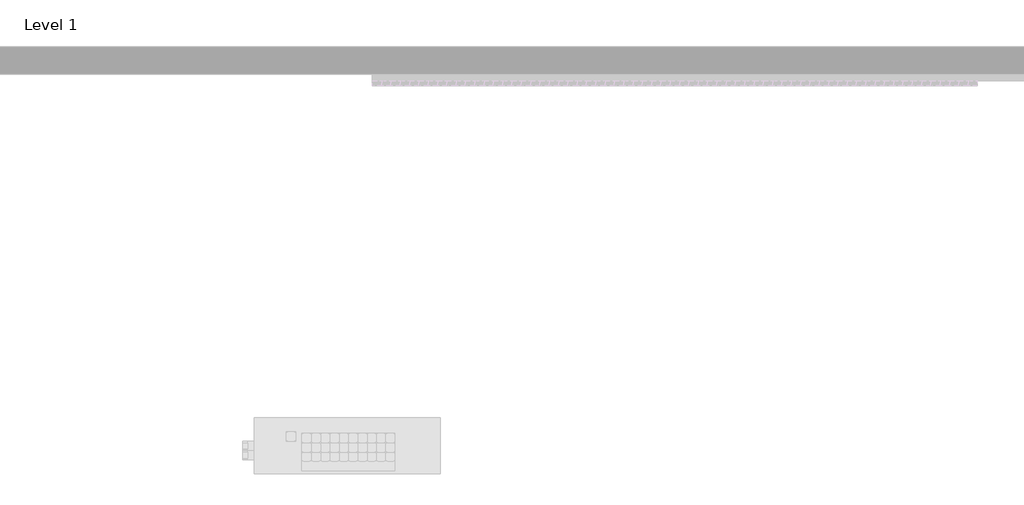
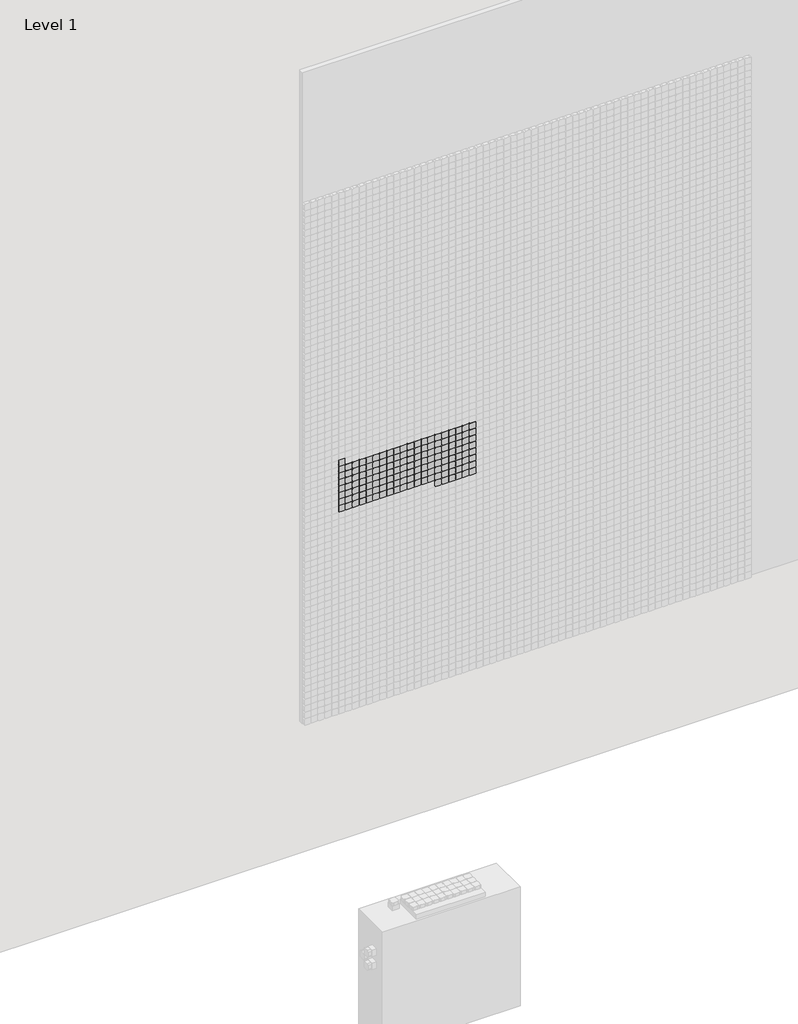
# One storey, part 16 of 71: 147 proxies.
"""IFC4 building model written with IfcOpenShell, lengths in millimetres."""

from ifc_helpers import new_model, si_unit, origin, place, context, project, spatial, transform, mapped, element, save
from components import generic_models_afde289c

model = new_model("IFC4")

# Units and contexts
model_context = context("Model", 3, world=origin())
ifc_project = project(units=[si_unit("LENGTHUNIT", "METRE", prefix="MILLI")], contexts=[model_context])

# Site, building, storey
site = spatial("IfcSite", under=ifc_project)
building = spatial("IfcBuilding", under=site)
storey = spatial("IfcBuildingStorey", under=building, Name="Level 1", Elevation=0.0)

# Proxies
placement = place(None, origin())
generic_models_shape = generic_models_afde289c(model_context)
element("IfcBuildingElementProxy", 1, Name="Pixel_M : Pixel_M", ObjectType="Pixel_M : Pixel_M", at=placement, inside=storey, context=model_context, shape_type="MappedRepresentation", body=[
    mapped(generic_models_shape, transform((5012.4280941, -75.0, 2916.3566215), x_axis=(1.0, 0.0, 0.0), y_axis=(0.0, 0.0, 1.0), z_axis=(0.0, -1.0, 0.0))),
])
element("IfcBuildingElementProxy", 2, Name="Pixel_M : Pixel_M", ObjectType="Pixel_M : Pixel_M", at=placement, inside=storey, context=model_context, shape_type="MappedRepresentation", body=[
    mapped(generic_models_shape, transform((5962.4280941, -75.0, 2866.3566215), x_axis=(1.0, 0.0, 0.0), y_axis=(0.0, 0.0, 1.0), z_axis=(0.0, -1.0, 0.0))),
])
element("IfcBuildingElementProxy", 3, Name="Pixel_M : Pixel_M", ObjectType="Pixel_M : Pixel_M", at=placement, inside=storey, context=model_context, shape_type="MappedRepresentation", body=[
    mapped(generic_models_shape, transform((5912.4280941, -75.0, 2866.3566215), x_axis=(1.0, 0.0, 0.0), y_axis=(0.0, 0.0, 1.0), z_axis=(0.0, -1.0, 0.0))),
])
element("IfcBuildingElementProxy", 4, Name="Pixel_M : Pixel_M", ObjectType="Pixel_M : Pixel_M", at=placement, inside=storey, context=model_context, shape_type="MappedRepresentation", body=[
    mapped(generic_models_shape, transform((5862.4280941, -75.0, 2866.3566215), x_axis=(1.0, 0.0, 0.0), y_axis=(0.0, 0.0, 1.0), z_axis=(0.0, -1.0, 0.0))),
])
element("IfcBuildingElementProxy", 5, Name="Pixel_M : Pixel_M", ObjectType="Pixel_M : Pixel_M", at=placement, inside=storey, context=model_context, shape_type="MappedRepresentation", body=[
    mapped(generic_models_shape, transform((5812.4280941, -75.0, 2866.3566215), x_axis=(1.0, 0.0, 0.0), y_axis=(0.0, 0.0, 1.0), z_axis=(0.0, -1.0, 0.0))),
])
element("IfcBuildingElementProxy", 6, Name="Pixel_M : Pixel_M", ObjectType="Pixel_M : Pixel_M", at=placement, inside=storey, context=model_context, shape_type="MappedRepresentation", body=[
    mapped(generic_models_shape, transform((5762.4280941, -75.0, 2866.3566215), x_axis=(1.0, 0.0, 0.0), y_axis=(0.0, 0.0, 1.0), z_axis=(0.0, -1.0, 0.0))),
])
element("IfcBuildingElementProxy", 7, Name="Pixel_M : Pixel_M", ObjectType="Pixel_M : Pixel_M", at=placement, inside=storey, context=model_context, shape_type="MappedRepresentation", body=[
    mapped(generic_models_shape, transform((5712.4280941, -75.0, 2866.3566215), x_axis=(1.0, 0.0, 0.0), y_axis=(0.0, 0.0, 1.0), z_axis=(0.0, -1.0, 0.0))),
])
element("IfcBuildingElementProxy", 8, Name="Pixel_M : Pixel_M", ObjectType="Pixel_M : Pixel_M", at=placement, inside=storey, context=model_context, shape_type="MappedRepresentation", body=[
    mapped(generic_models_shape, transform((5662.4280941, -75.0, 2866.3566215), x_axis=(1.0, 0.0, 0.0), y_axis=(0.0, 0.0, 1.0), z_axis=(0.0, -1.0, 0.0))),
])
element("IfcBuildingElementProxy", 9, Name="Pixel_M : Pixel_M", ObjectType="Pixel_M : Pixel_M", at=placement, inside=storey, context=model_context, shape_type="MappedRepresentation", body=[
    mapped(generic_models_shape, transform((5612.4280941, -75.0, 2866.3566215), x_axis=(1.0, 0.0, 0.0), y_axis=(0.0, 0.0, 1.0), z_axis=(0.0, -1.0, 0.0))),
])
element("IfcBuildingElementProxy", 10, Name="Pixel_M : Pixel_M", ObjectType="Pixel_M : Pixel_M", at=placement, inside=storey, context=model_context, shape_type="MappedRepresentation", body=[
    mapped(generic_models_shape, transform((5562.4280941, -75.0, 2866.3566215), x_axis=(1.0, 0.0, 0.0), y_axis=(0.0, 0.0, 1.0), z_axis=(0.0, -1.0, 0.0))),
])
element("IfcBuildingElementProxy", 11, Name="Pixel_M : Pixel_M", ObjectType="Pixel_M : Pixel_M", at=placement, inside=storey, context=model_context, shape_type="MappedRepresentation", body=[
    mapped(generic_models_shape, transform((5512.4280941, -75.0, 2866.3566215), x_axis=(1.0, 0.0, 0.0), y_axis=(0.0, 0.0, 1.0), z_axis=(0.0, -1.0, 0.0))),
])
element("IfcBuildingElementProxy", 12, Name="Pixel_M : Pixel_M", ObjectType="Pixel_M : Pixel_M", at=placement, inside=storey, context=model_context, shape_type="MappedRepresentation", body=[
    mapped(generic_models_shape, transform((5462.4280941, -75.0, 2866.3566215), x_axis=(1.0, 0.0, 0.0), y_axis=(0.0, 0.0, 1.0), z_axis=(0.0, -1.0, 0.0))),
])
element("IfcBuildingElementProxy", 13, Name="Pixel_M : Pixel_M", ObjectType="Pixel_M : Pixel_M", at=placement, inside=storey, context=model_context, shape_type="MappedRepresentation", body=[
    mapped(generic_models_shape, transform((5412.4280941, -75.0, 2866.3566215), x_axis=(1.0, 0.0, 0.0), y_axis=(0.0, 0.0, 1.0), z_axis=(0.0, -1.0, 0.0))),
])
element("IfcBuildingElementProxy", 14, Name="Pixel_M : Pixel_M", ObjectType="Pixel_M : Pixel_M", at=placement, inside=storey, context=model_context, shape_type="MappedRepresentation", body=[
    mapped(generic_models_shape, transform((5362.4280941, -75.0, 2866.3566215), x_axis=(1.0, 0.0, 0.0), y_axis=(0.0, 0.0, 1.0), z_axis=(0.0, -1.0, 0.0))),
])
element("IfcBuildingElementProxy", 15, Name="Pixel_M : Pixel_M", ObjectType="Pixel_M : Pixel_M", at=placement, inside=storey, context=model_context, shape_type="MappedRepresentation", body=[
    mapped(generic_models_shape, transform((5312.4280941, -75.0, 2866.3566215), x_axis=(1.0, 0.0, 0.0), y_axis=(0.0, 0.0, 1.0), z_axis=(0.0, -1.0, 0.0))),
])
element("IfcBuildingElementProxy", 16, Name="Pixel_M : Pixel_M", ObjectType="Pixel_M : Pixel_M", at=placement, inside=storey, context=model_context, shape_type="MappedRepresentation", body=[
    mapped(generic_models_shape, transform((5262.4280941, -75.0, 2866.3566215), x_axis=(1.0, 0.0, 0.0), y_axis=(0.0, 0.0, 1.0), z_axis=(0.0, -1.0, 0.0))),
])
element("IfcBuildingElementProxy", 17, Name="Pixel_M : Pixel_M", ObjectType="Pixel_M : Pixel_M", at=placement, inside=storey, context=model_context, shape_type="MappedRepresentation", body=[
    mapped(generic_models_shape, transform((5212.4280941, -75.0, 2866.3566215), x_axis=(1.0, 0.0, 0.0), y_axis=(0.0, 0.0, 1.0), z_axis=(0.0, -1.0, 0.0))),
])
element("IfcBuildingElementProxy", 18, Name="Pixel_M : Pixel_M", ObjectType="Pixel_M : Pixel_M", at=placement, inside=storey, context=model_context, shape_type="MappedRepresentation", body=[
    mapped(generic_models_shape, transform((5162.4280941, -75.0, 2866.3566215), x_axis=(1.0, 0.0, 0.0), y_axis=(0.0, 0.0, 1.0), z_axis=(0.0, -1.0, 0.0))),
])
element("IfcBuildingElementProxy", 19, Name="Pixel_M : Pixel_M", ObjectType="Pixel_M : Pixel_M", at=placement, inside=storey, context=model_context, shape_type="MappedRepresentation", body=[
    mapped(generic_models_shape, transform((5112.4280941, -75.0, 2866.3566215), x_axis=(1.0, 0.0, 0.0), y_axis=(0.0, 0.0, 1.0), z_axis=(0.0, -1.0, 0.0))),
])
element("IfcBuildingElementProxy", 20, Name="Pixel_M : Pixel_M", ObjectType="Pixel_M : Pixel_M", at=placement, inside=storey, context=model_context, shape_type="MappedRepresentation", body=[
    mapped(generic_models_shape, transform((5062.4280941, -75.0, 2866.3566215), x_axis=(1.0, 0.0, 0.0), y_axis=(0.0, 0.0, 1.0), z_axis=(0.0, -1.0, 0.0))),
])
element("IfcBuildingElementProxy", 21, Name="Pixel_M : Pixel_M", ObjectType="Pixel_M : Pixel_M", at=placement, inside=storey, context=model_context, shape_type="MappedRepresentation", body=[
    mapped(generic_models_shape, transform((5012.4280941, -75.0, 2866.3566215), x_axis=(1.0, 0.0, 0.0), y_axis=(0.0, 0.0, 1.0), z_axis=(0.0, -1.0, 0.0))),
])
element("IfcBuildingElementProxy", 22, Name="Pixel_M : Pixel_M", ObjectType="Pixel_M : Pixel_M", at=placement, inside=storey, context=model_context, shape_type="MappedRepresentation", body=[
    mapped(generic_models_shape, transform((5962.4280941, -75.0, 2816.3566215), x_axis=(1.0, 0.0, 0.0), y_axis=(0.0, 0.0, 1.0), z_axis=(0.0, -1.0, 0.0))),
])
element("IfcBuildingElementProxy", 23, Name="Pixel_M : Pixel_M", ObjectType="Pixel_M : Pixel_M", at=placement, inside=storey, context=model_context, shape_type="MappedRepresentation", body=[
    mapped(generic_models_shape, transform((5912.4280941, -75.0, 2816.3566215), x_axis=(1.0, 0.0, 0.0), y_axis=(0.0, 0.0, 1.0), z_axis=(0.0, -1.0, 0.0))),
])
element("IfcBuildingElementProxy", 24, Name="Pixel_M : Pixel_M", ObjectType="Pixel_M : Pixel_M", at=placement, inside=storey, context=model_context, shape_type="MappedRepresentation", body=[
    mapped(generic_models_shape, transform((5862.4280941, -75.0, 2816.3566215), x_axis=(1.0, 0.0, 0.0), y_axis=(0.0, 0.0, 1.0), z_axis=(0.0, -1.0, 0.0))),
])
element("IfcBuildingElementProxy", 25, Name="Pixel_M : Pixel_M", ObjectType="Pixel_M : Pixel_M", at=placement, inside=storey, context=model_context, shape_type="MappedRepresentation", body=[
    mapped(generic_models_shape, transform((5812.4280941, -75.0, 2816.3566215), x_axis=(1.0, 0.0, 0.0), y_axis=(0.0, 0.0, 1.0), z_axis=(0.0, -1.0, 0.0))),
])
element("IfcBuildingElementProxy", 26, Name="Pixel_M : Pixel_M", ObjectType="Pixel_M : Pixel_M", at=placement, inside=storey, context=model_context, shape_type="MappedRepresentation", body=[
    mapped(generic_models_shape, transform((5762.4280941, -75.0, 2816.3566215), x_axis=(1.0, 0.0, 0.0), y_axis=(0.0, 0.0, 1.0), z_axis=(0.0, -1.0, 0.0))),
])
element("IfcBuildingElementProxy", 27, Name="Pixel_M : Pixel_M", ObjectType="Pixel_M : Pixel_M", at=placement, inside=storey, context=model_context, shape_type="MappedRepresentation", body=[
    mapped(generic_models_shape, transform((5712.4280941, -75.0, 2816.3566215), x_axis=(1.0, 0.0, 0.0), y_axis=(0.0, 0.0, 1.0), z_axis=(0.0, -1.0, 0.0))),
])
element("IfcBuildingElementProxy", 28, Name="Pixel_M : Pixel_M", ObjectType="Pixel_M : Pixel_M", at=placement, inside=storey, context=model_context, shape_type="MappedRepresentation", body=[
    mapped(generic_models_shape, transform((5662.4280941, -75.0, 2816.3566215), x_axis=(1.0, 0.0, 0.0), y_axis=(0.0, 0.0, 1.0), z_axis=(0.0, -1.0, 0.0))),
])
element("IfcBuildingElementProxy", 29, Name="Pixel_M : Pixel_M", ObjectType="Pixel_M : Pixel_M", at=placement, inside=storey, context=model_context, shape_type="MappedRepresentation", body=[
    mapped(generic_models_shape, transform((5612.4280941, -75.0, 2816.3566215), x_axis=(1.0, 0.0, 0.0), y_axis=(0.0, 0.0, 1.0), z_axis=(0.0, -1.0, 0.0))),
])
element("IfcBuildingElementProxy", 30, Name="Pixel_M : Pixel_M", ObjectType="Pixel_M : Pixel_M", at=placement, inside=storey, context=model_context, shape_type="MappedRepresentation", body=[
    mapped(generic_models_shape, transform((5562.4280941, -75.0, 2816.3566215), x_axis=(1.0, 0.0, 0.0), y_axis=(0.0, 0.0, 1.0), z_axis=(0.0, -1.0, 0.0))),
])
element("IfcBuildingElementProxy", 31, Name="Pixel_M : Pixel_M", ObjectType="Pixel_M : Pixel_M", at=placement, inside=storey, context=model_context, shape_type="MappedRepresentation", body=[
    mapped(generic_models_shape, transform((5512.4280941, -75.0, 2816.3566215), x_axis=(1.0, 0.0, 0.0), y_axis=(0.0, 0.0, 1.0), z_axis=(0.0, -1.0, 0.0))),
])
element("IfcBuildingElementProxy", 32, Name="Pixel_M : Pixel_M", ObjectType="Pixel_M : Pixel_M", at=placement, inside=storey, context=model_context, shape_type="MappedRepresentation", body=[
    mapped(generic_models_shape, transform((5462.4280941, -75.0, 2816.3566215), x_axis=(1.0, 0.0, 0.0), y_axis=(0.0, 0.0, 1.0), z_axis=(0.0, -1.0, 0.0))),
])
element("IfcBuildingElementProxy", 33, Name="Pixel_M : Pixel_M", ObjectType="Pixel_M : Pixel_M", at=placement, inside=storey, context=model_context, shape_type="MappedRepresentation", body=[
    mapped(generic_models_shape, transform((5412.4280941, -75.0, 2816.3566215), x_axis=(1.0, 0.0, 0.0), y_axis=(0.0, 0.0, 1.0), z_axis=(0.0, -1.0, 0.0))),
])
element("IfcBuildingElementProxy", 34, Name="Pixel_M : Pixel_M", ObjectType="Pixel_M : Pixel_M", at=placement, inside=storey, context=model_context, shape_type="MappedRepresentation", body=[
    mapped(generic_models_shape, transform((5362.4280941, -75.0, 2816.3566215), x_axis=(1.0, 0.0, 0.0), y_axis=(0.0, 0.0, 1.0), z_axis=(0.0, -1.0, 0.0))),
])
element("IfcBuildingElementProxy", 35, Name="Pixel_M : Pixel_M", ObjectType="Pixel_M : Pixel_M", at=placement, inside=storey, context=model_context, shape_type="MappedRepresentation", body=[
    mapped(generic_models_shape, transform((5312.4280941, -75.0, 2816.3566215), x_axis=(1.0, 0.0, 0.0), y_axis=(0.0, 0.0, 1.0), z_axis=(0.0, -1.0, 0.0))),
])
element("IfcBuildingElementProxy", 36, Name="Pixel_M : Pixel_M", ObjectType="Pixel_M : Pixel_M", at=placement, inside=storey, context=model_context, shape_type="MappedRepresentation", body=[
    mapped(generic_models_shape, transform((5262.4280941, -75.0, 2816.3566215), x_axis=(1.0, 0.0, 0.0), y_axis=(0.0, 0.0, 1.0), z_axis=(0.0, -1.0, 0.0))),
])
element("IfcBuildingElementProxy", 37, Name="Pixel_M : Pixel_M", ObjectType="Pixel_M : Pixel_M", at=placement, inside=storey, context=model_context, shape_type="MappedRepresentation", body=[
    mapped(generic_models_shape, transform((5212.4280941, -75.0, 2816.3566215), x_axis=(1.0, 0.0, 0.0), y_axis=(0.0, 0.0, 1.0), z_axis=(0.0, -1.0, 0.0))),
])
element("IfcBuildingElementProxy", 38, Name="Pixel_M : Pixel_M", ObjectType="Pixel_M : Pixel_M", at=placement, inside=storey, context=model_context, shape_type="MappedRepresentation", body=[
    mapped(generic_models_shape, transform((5162.4280941, -75.0, 2816.3566215), x_axis=(1.0, 0.0, 0.0), y_axis=(0.0, 0.0, 1.0), z_axis=(0.0, -1.0, 0.0))),
])
element("IfcBuildingElementProxy", 39, Name="Pixel_M : Pixel_M", ObjectType="Pixel_M : Pixel_M", at=placement, inside=storey, context=model_context, shape_type="MappedRepresentation", body=[
    mapped(generic_models_shape, transform((5112.4280941, -75.0, 2816.3566215), x_axis=(1.0, 0.0, 0.0), y_axis=(0.0, 0.0, 1.0), z_axis=(0.0, -1.0, 0.0))),
])
element("IfcBuildingElementProxy", 40, Name="Pixel_M : Pixel_M", ObjectType="Pixel_M : Pixel_M", at=placement, inside=storey, context=model_context, shape_type="MappedRepresentation", body=[
    mapped(generic_models_shape, transform((5062.4280941, -75.0, 2816.3566215), x_axis=(1.0, 0.0, 0.0), y_axis=(0.0, 0.0, 1.0), z_axis=(0.0, -1.0, 0.0))),
])
element("IfcBuildingElementProxy", 41, Name="Pixel_M : Pixel_M", ObjectType="Pixel_M : Pixel_M", at=placement, inside=storey, context=model_context, shape_type="MappedRepresentation", body=[
    mapped(generic_models_shape, transform((5012.4280941, -75.0, 2816.3566215), x_axis=(1.0, 0.0, 0.0), y_axis=(0.0, 0.0, 1.0), z_axis=(0.0, -1.0, 0.0))),
])
element("IfcBuildingElementProxy", 42, Name="Pixel_M : Pixel_M", ObjectType="Pixel_M : Pixel_M", at=placement, inside=storey, context=model_context, shape_type="MappedRepresentation", body=[
    mapped(generic_models_shape, transform((5962.4280941, -75.0, 2766.3566215), x_axis=(1.0, 0.0, 0.0), y_axis=(0.0, 0.0, 1.0), z_axis=(0.0, -1.0, 0.0))),
])
element("IfcBuildingElementProxy", 43, Name="Pixel_M : Pixel_M", ObjectType="Pixel_M : Pixel_M", at=placement, inside=storey, context=model_context, shape_type="MappedRepresentation", body=[
    mapped(generic_models_shape, transform((5912.4280941, -75.0, 2766.3566215), x_axis=(1.0, 0.0, 0.0), y_axis=(0.0, 0.0, 1.0), z_axis=(0.0, -1.0, 0.0))),
])
element("IfcBuildingElementProxy", 44, Name="Pixel_M : Pixel_M", ObjectType="Pixel_M : Pixel_M", at=placement, inside=storey, context=model_context, shape_type="MappedRepresentation", body=[
    mapped(generic_models_shape, transform((5862.4280941, -75.0, 2766.3566215), x_axis=(1.0, 0.0, 0.0), y_axis=(0.0, 0.0, 1.0), z_axis=(0.0, -1.0, 0.0))),
])
element("IfcBuildingElementProxy", 45, Name="Pixel_M : Pixel_M", ObjectType="Pixel_M : Pixel_M", at=placement, inside=storey, context=model_context, shape_type="MappedRepresentation", body=[
    mapped(generic_models_shape, transform((5812.4280941, -75.0, 2766.3566215), x_axis=(1.0, 0.0, 0.0), y_axis=(0.0, 0.0, 1.0), z_axis=(0.0, -1.0, 0.0))),
])
element("IfcBuildingElementProxy", 46, Name="Pixel_M : Pixel_M", ObjectType="Pixel_M : Pixel_M", at=placement, inside=storey, context=model_context, shape_type="MappedRepresentation", body=[
    mapped(generic_models_shape, transform((5762.4280941, -75.0, 2766.3566215), x_axis=(1.0, 0.0, 0.0), y_axis=(0.0, 0.0, 1.0), z_axis=(0.0, -1.0, 0.0))),
])
element("IfcBuildingElementProxy", 47, Name="Pixel_M : Pixel_M", ObjectType="Pixel_M : Pixel_M", at=placement, inside=storey, context=model_context, shape_type="MappedRepresentation", body=[
    mapped(generic_models_shape, transform((5712.4280941, -75.0, 2766.3566215), x_axis=(1.0, 0.0, 0.0), y_axis=(0.0, 0.0, 1.0), z_axis=(0.0, -1.0, 0.0))),
])
element("IfcBuildingElementProxy", 48, Name="Pixel_M : Pixel_M", ObjectType="Pixel_M : Pixel_M", at=placement, inside=storey, context=model_context, shape_type="MappedRepresentation", body=[
    mapped(generic_models_shape, transform((5662.4280941, -75.0, 2766.3566215), x_axis=(1.0, 0.0, 0.0), y_axis=(0.0, 0.0, 1.0), z_axis=(0.0, -1.0, 0.0))),
])
element("IfcBuildingElementProxy", 49, Name="Pixel_M : Pixel_M", ObjectType="Pixel_M : Pixel_M", at=placement, inside=storey, context=model_context, shape_type="MappedRepresentation", body=[
    mapped(generic_models_shape, transform((5612.4280941, -75.0, 2766.3566215), x_axis=(1.0, 0.0, 0.0), y_axis=(0.0, 0.0, 1.0), z_axis=(0.0, -1.0, 0.0))),
])
element("IfcBuildingElementProxy", 50, Name="Pixel_M : Pixel_M", ObjectType="Pixel_M : Pixel_M", at=placement, inside=storey, context=model_context, shape_type="MappedRepresentation", body=[
    mapped(generic_models_shape, transform((5562.4280941, -75.0, 2766.3566215), x_axis=(1.0, 0.0, 0.0), y_axis=(0.0, 0.0, 1.0), z_axis=(0.0, -1.0, 0.0))),
])
element("IfcBuildingElementProxy", 51, Name="Pixel_M : Pixel_M", ObjectType="Pixel_M : Pixel_M", at=placement, inside=storey, context=model_context, shape_type="MappedRepresentation", body=[
    mapped(generic_models_shape, transform((5512.4280941, -75.0, 2766.3566215), x_axis=(1.0, 0.0, 0.0), y_axis=(0.0, 0.0, 1.0), z_axis=(0.0, -1.0, 0.0))),
])
element("IfcBuildingElementProxy", 52, Name="Pixel_M : Pixel_M", ObjectType="Pixel_M : Pixel_M", at=placement, inside=storey, context=model_context, shape_type="MappedRepresentation", body=[
    mapped(generic_models_shape, transform((5462.4280941, -75.0, 2766.3566215), x_axis=(1.0, 0.0, 0.0), y_axis=(0.0, 0.0, 1.0), z_axis=(0.0, -1.0, 0.0))),
])
element("IfcBuildingElementProxy", 53, Name="Pixel_M : Pixel_M", ObjectType="Pixel_M : Pixel_M", at=placement, inside=storey, context=model_context, shape_type="MappedRepresentation", body=[
    mapped(generic_models_shape, transform((5412.4280941, -75.0, 2766.3566215), x_axis=(1.0, 0.0, 0.0), y_axis=(0.0, 0.0, 1.0), z_axis=(0.0, -1.0, 0.0))),
])
element("IfcBuildingElementProxy", 54, Name="Pixel_M : Pixel_M", ObjectType="Pixel_M : Pixel_M", at=placement, inside=storey, context=model_context, shape_type="MappedRepresentation", body=[
    mapped(generic_models_shape, transform((5362.4280941, -75.0, 2766.3566215), x_axis=(1.0, 0.0, 0.0), y_axis=(0.0, 0.0, 1.0), z_axis=(0.0, -1.0, 0.0))),
])
element("IfcBuildingElementProxy", 55, Name="Pixel_M : Pixel_M", ObjectType="Pixel_M : Pixel_M", at=placement, inside=storey, context=model_context, shape_type="MappedRepresentation", body=[
    mapped(generic_models_shape, transform((5312.4280941, -75.0, 2766.3566215), x_axis=(1.0, 0.0, 0.0), y_axis=(0.0, 0.0, 1.0), z_axis=(0.0, -1.0, 0.0))),
])
element("IfcBuildingElementProxy", 56, Name="Pixel_M : Pixel_M", ObjectType="Pixel_M : Pixel_M", at=placement, inside=storey, context=model_context, shape_type="MappedRepresentation", body=[
    mapped(generic_models_shape, transform((5262.4280941, -75.0, 2766.3566215), x_axis=(1.0, 0.0, 0.0), y_axis=(0.0, 0.0, 1.0), z_axis=(0.0, -1.0, 0.0))),
])
element("IfcBuildingElementProxy", 57, Name="Pixel_M : Pixel_M", ObjectType="Pixel_M : Pixel_M", at=placement, inside=storey, context=model_context, shape_type="MappedRepresentation", body=[
    mapped(generic_models_shape, transform((5212.4280941, -75.0, 2766.3566215), x_axis=(1.0, 0.0, 0.0), y_axis=(0.0, 0.0, 1.0), z_axis=(0.0, -1.0, 0.0))),
])
element("IfcBuildingElementProxy", 58, Name="Pixel_M : Pixel_M", ObjectType="Pixel_M : Pixel_M", at=placement, inside=storey, context=model_context, shape_type="MappedRepresentation", body=[
    mapped(generic_models_shape, transform((5162.4280941, -75.0, 2766.3566215), x_axis=(1.0, 0.0, 0.0), y_axis=(0.0, 0.0, 1.0), z_axis=(0.0, -1.0, 0.0))),
])
element("IfcBuildingElementProxy", 59, Name="Pixel_M : Pixel_M", ObjectType="Pixel_M : Pixel_M", at=placement, inside=storey, context=model_context, shape_type="MappedRepresentation", body=[
    mapped(generic_models_shape, transform((5112.4280941, -75.0, 2766.3566215), x_axis=(1.0, 0.0, 0.0), y_axis=(0.0, 0.0, 1.0), z_axis=(0.0, -1.0, 0.0))),
])
element("IfcBuildingElementProxy", 60, Name="Pixel_M : Pixel_M", ObjectType="Pixel_M : Pixel_M", at=placement, inside=storey, context=model_context, shape_type="MappedRepresentation", body=[
    mapped(generic_models_shape, transform((5062.4280941, -75.0, 2766.3566215), x_axis=(1.0, 0.0, 0.0), y_axis=(0.0, 0.0, 1.0), z_axis=(0.0, -1.0, 0.0))),
])
element("IfcBuildingElementProxy", 61, Name="Pixel_M : Pixel_M", ObjectType="Pixel_M : Pixel_M", at=placement, inside=storey, context=model_context, shape_type="MappedRepresentation", body=[
    mapped(generic_models_shape, transform((5012.4280941, -75.0, 2766.3566215), x_axis=(1.0, 0.0, 0.0), y_axis=(0.0, 0.0, 1.0), z_axis=(0.0, -1.0, 0.0))),
])
element("IfcBuildingElementProxy", 62, Name="Pixel_M : Pixel_M", ObjectType="Pixel_M : Pixel_M", at=placement, inside=storey, context=model_context, shape_type="MappedRepresentation", body=[
    mapped(generic_models_shape, transform((5962.4280941, -75.0, 2716.3566215), x_axis=(1.0, 0.0, 0.0), y_axis=(0.0, 0.0, 1.0), z_axis=(0.0, -1.0, 0.0))),
])
element("IfcBuildingElementProxy", 63, Name="Pixel_M : Pixel_M", ObjectType="Pixel_M : Pixel_M", at=placement, inside=storey, context=model_context, shape_type="MappedRepresentation", body=[
    mapped(generic_models_shape, transform((5912.4280941, -75.0, 2716.3566215), x_axis=(1.0, 0.0, 0.0), y_axis=(0.0, 0.0, 1.0), z_axis=(0.0, -1.0, 0.0))),
])
element("IfcBuildingElementProxy", 64, Name="Pixel_M : Pixel_M", ObjectType="Pixel_M : Pixel_M", at=placement, inside=storey, context=model_context, shape_type="MappedRepresentation", body=[
    mapped(generic_models_shape, transform((5862.4280941, -75.0, 2716.3566215), x_axis=(1.0, 0.0, 0.0), y_axis=(0.0, 0.0, 1.0), z_axis=(0.0, -1.0, 0.0))),
])
element("IfcBuildingElementProxy", 65, Name="Pixel_M : Pixel_M", ObjectType="Pixel_M : Pixel_M", at=placement, inside=storey, context=model_context, shape_type="MappedRepresentation", body=[
    mapped(generic_models_shape, transform((5812.4280941, -75.0, 2716.3566215), x_axis=(1.0, 0.0, 0.0), y_axis=(0.0, 0.0, 1.0), z_axis=(0.0, -1.0, 0.0))),
])
element("IfcBuildingElementProxy", 66, Name="Pixel_M : Pixel_M", ObjectType="Pixel_M : Pixel_M", at=placement, inside=storey, context=model_context, shape_type="MappedRepresentation", body=[
    mapped(generic_models_shape, transform((5762.4280941, -75.0, 2716.3566215), x_axis=(1.0, 0.0, 0.0), y_axis=(0.0, 0.0, 1.0), z_axis=(0.0, -1.0, 0.0))),
])
element("IfcBuildingElementProxy", 67, Name="Pixel_M : Pixel_M", ObjectType="Pixel_M : Pixel_M", at=placement, inside=storey, context=model_context, shape_type="MappedRepresentation", body=[
    mapped(generic_models_shape, transform((5712.4280941, -75.0, 2716.3566215), x_axis=(1.0, 0.0, 0.0), y_axis=(0.0, 0.0, 1.0), z_axis=(0.0, -1.0, 0.0))),
])
element("IfcBuildingElementProxy", 68, Name="Pixel_M : Pixel_M", ObjectType="Pixel_M : Pixel_M", at=placement, inside=storey, context=model_context, shape_type="MappedRepresentation", body=[
    mapped(generic_models_shape, transform((5662.4280941, -75.0, 2716.3566215), x_axis=(1.0, 0.0, 0.0), y_axis=(0.0, 0.0, 1.0), z_axis=(0.0, -1.0, 0.0))),
])
element("IfcBuildingElementProxy", 69, Name="Pixel_M : Pixel_M", ObjectType="Pixel_M : Pixel_M", at=placement, inside=storey, context=model_context, shape_type="MappedRepresentation", body=[
    mapped(generic_models_shape, transform((5612.4280941, -75.0, 2716.3566215), x_axis=(1.0, 0.0, 0.0), y_axis=(0.0, 0.0, 1.0), z_axis=(0.0, -1.0, 0.0))),
])
element("IfcBuildingElementProxy", 70, Name="Pixel_M : Pixel_M", ObjectType="Pixel_M : Pixel_M", at=placement, inside=storey, context=model_context, shape_type="MappedRepresentation", body=[
    mapped(generic_models_shape, transform((5562.4280941, -75.0, 2716.3566215), x_axis=(1.0, 0.0, 0.0), y_axis=(0.0, 0.0, 1.0), z_axis=(0.0, -1.0, 0.0))),
])
element("IfcBuildingElementProxy", 71, Name="Pixel_M : Pixel_M", ObjectType="Pixel_M : Pixel_M", at=placement, inside=storey, context=model_context, shape_type="MappedRepresentation", body=[
    mapped(generic_models_shape, transform((5512.4280941, -75.0, 2716.3566215), x_axis=(1.0, 0.0, 0.0), y_axis=(0.0, 0.0, 1.0), z_axis=(0.0, -1.0, 0.0))),
])
element("IfcBuildingElementProxy", 72, Name="Pixel_M : Pixel_M", ObjectType="Pixel_M : Pixel_M", at=placement, inside=storey, context=model_context, shape_type="MappedRepresentation", body=[
    mapped(generic_models_shape, transform((5462.4280941, -75.0, 2716.3566215), x_axis=(1.0, 0.0, 0.0), y_axis=(0.0, 0.0, 1.0), z_axis=(0.0, -1.0, 0.0))),
])
element("IfcBuildingElementProxy", 73, Name="Pixel_M : Pixel_M", ObjectType="Pixel_M : Pixel_M", at=placement, inside=storey, context=model_context, shape_type="MappedRepresentation", body=[
    mapped(generic_models_shape, transform((5412.4280941, -75.0, 2716.3566215), x_axis=(1.0, 0.0, 0.0), y_axis=(0.0, 0.0, 1.0), z_axis=(0.0, -1.0, 0.0))),
])
element("IfcBuildingElementProxy", 74, Name="Pixel_M : Pixel_M", ObjectType="Pixel_M : Pixel_M", at=placement, inside=storey, context=model_context, shape_type="MappedRepresentation", body=[
    mapped(generic_models_shape, transform((5362.4280941, -75.0, 2716.3566215), x_axis=(1.0, 0.0, 0.0), y_axis=(0.0, 0.0, 1.0), z_axis=(0.0, -1.0, 0.0))),
])
element("IfcBuildingElementProxy", 75, Name="Pixel_M : Pixel_M", ObjectType="Pixel_M : Pixel_M", at=placement, inside=storey, context=model_context, shape_type="MappedRepresentation", body=[
    mapped(generic_models_shape, transform((5312.4280941, -75.0, 2716.3566215), x_axis=(1.0, 0.0, 0.0), y_axis=(0.0, 0.0, 1.0), z_axis=(0.0, -1.0, 0.0))),
])
element("IfcBuildingElementProxy", 76, Name="Pixel_M : Pixel_M", ObjectType="Pixel_M : Pixel_M", at=placement, inside=storey, context=model_context, shape_type="MappedRepresentation", body=[
    mapped(generic_models_shape, transform((5262.4280941, -75.0, 2716.3566215), x_axis=(1.0, 0.0, 0.0), y_axis=(0.0, 0.0, 1.0), z_axis=(0.0, -1.0, 0.0))),
])
element("IfcBuildingElementProxy", 77, Name="Pixel_M : Pixel_M", ObjectType="Pixel_M : Pixel_M", at=placement, inside=storey, context=model_context, shape_type="MappedRepresentation", body=[
    mapped(generic_models_shape, transform((5212.4280941, -75.0, 2716.3566215), x_axis=(1.0, 0.0, 0.0), y_axis=(0.0, 0.0, 1.0), z_axis=(0.0, -1.0, 0.0))),
])
element("IfcBuildingElementProxy", 78, Name="Pixel_M : Pixel_M", ObjectType="Pixel_M : Pixel_M", at=placement, inside=storey, context=model_context, shape_type="MappedRepresentation", body=[
    mapped(generic_models_shape, transform((5162.4280941, -75.0, 2716.3566215), x_axis=(1.0, 0.0, 0.0), y_axis=(0.0, 0.0, 1.0), z_axis=(0.0, -1.0, 0.0))),
])
element("IfcBuildingElementProxy", 79, Name="Pixel_M : Pixel_M", ObjectType="Pixel_M : Pixel_M", at=placement, inside=storey, context=model_context, shape_type="MappedRepresentation", body=[
    mapped(generic_models_shape, transform((5112.4280941, -75.0, 2716.3566215), x_axis=(1.0, 0.0, 0.0), y_axis=(0.0, 0.0, 1.0), z_axis=(0.0, -1.0, 0.0))),
])
element("IfcBuildingElementProxy", 80, Name="Pixel_M : Pixel_M", ObjectType="Pixel_M : Pixel_M", at=placement, inside=storey, context=model_context, shape_type="MappedRepresentation", body=[
    mapped(generic_models_shape, transform((5062.4280941, -75.0, 2716.3566215), x_axis=(1.0, 0.0, 0.0), y_axis=(0.0, 0.0, 1.0), z_axis=(0.0, -1.0, 0.0))),
])
element("IfcBuildingElementProxy", 81, Name="Pixel_M : Pixel_M", ObjectType="Pixel_M : Pixel_M", at=placement, inside=storey, context=model_context, shape_type="MappedRepresentation", body=[
    mapped(generic_models_shape, transform((5012.4280941, -75.0, 2716.3566215), x_axis=(1.0, 0.0, 0.0), y_axis=(0.0, 0.0, 1.0), z_axis=(0.0, -1.0, 0.0))),
])
element("IfcBuildingElementProxy", 82, Name="Pixel_M : Pixel_M", ObjectType="Pixel_M : Pixel_M", at=placement, inside=storey, context=model_context, shape_type="MappedRepresentation", body=[
    mapped(generic_models_shape, transform((5962.4280941, -75.0, 2666.3566215), x_axis=(1.0, 0.0, 0.0), y_axis=(0.0, 0.0, 1.0), z_axis=(0.0, -1.0, 0.0))),
])
element("IfcBuildingElementProxy", 83, Name="Pixel_M : Pixel_M", ObjectType="Pixel_M : Pixel_M", at=placement, inside=storey, context=model_context, shape_type="MappedRepresentation", body=[
    mapped(generic_models_shape, transform((5912.4280941, -75.0, 2666.3566215), x_axis=(1.0, 0.0, 0.0), y_axis=(0.0, 0.0, 1.0), z_axis=(0.0, -1.0, 0.0))),
])
element("IfcBuildingElementProxy", 84, Name="Pixel_M : Pixel_M", ObjectType="Pixel_M : Pixel_M", at=placement, inside=storey, context=model_context, shape_type="MappedRepresentation", body=[
    mapped(generic_models_shape, transform((5862.4280941, -75.0, 2666.3566215), x_axis=(1.0, 0.0, 0.0), y_axis=(0.0, 0.0, 1.0), z_axis=(0.0, -1.0, 0.0))),
])
element("IfcBuildingElementProxy", 85, Name="Pixel_M : Pixel_M", ObjectType="Pixel_M : Pixel_M", at=placement, inside=storey, context=model_context, shape_type="MappedRepresentation", body=[
    mapped(generic_models_shape, transform((5812.4280941, -75.0, 2666.3566215), x_axis=(1.0, 0.0, 0.0), y_axis=(0.0, 0.0, 1.0), z_axis=(0.0, -1.0, 0.0))),
])
element("IfcBuildingElementProxy", 86, Name="Pixel_M : Pixel_M", ObjectType="Pixel_M : Pixel_M", at=placement, inside=storey, context=model_context, shape_type="MappedRepresentation", body=[
    mapped(generic_models_shape, transform((5762.4280941, -75.0, 2666.3566215), x_axis=(1.0, 0.0, 0.0), y_axis=(0.0, 0.0, 1.0), z_axis=(0.0, -1.0, 0.0))),
])
element("IfcBuildingElementProxy", 87, Name="Pixel_M : Pixel_M", ObjectType="Pixel_M : Pixel_M", at=placement, inside=storey, context=model_context, shape_type="MappedRepresentation", body=[
    mapped(generic_models_shape, transform((5712.4280941, -75.0, 2666.3566215), x_axis=(1.0, 0.0, 0.0), y_axis=(0.0, 0.0, 1.0), z_axis=(0.0, -1.0, 0.0))),
])
element("IfcBuildingElementProxy", 88, Name="Pixel_M : Pixel_M", ObjectType="Pixel_M : Pixel_M", at=placement, inside=storey, context=model_context, shape_type="MappedRepresentation", body=[
    mapped(generic_models_shape, transform((5662.4280941, -75.0, 2666.3566215), x_axis=(1.0, 0.0, 0.0), y_axis=(0.0, 0.0, 1.0), z_axis=(0.0, -1.0, 0.0))),
])
element("IfcBuildingElementProxy", 89, Name="Pixel_M : Pixel_M", ObjectType="Pixel_M : Pixel_M", at=placement, inside=storey, context=model_context, shape_type="MappedRepresentation", body=[
    mapped(generic_models_shape, transform((5612.4280941, -75.0, 2666.3566215), x_axis=(1.0, 0.0, 0.0), y_axis=(0.0, 0.0, 1.0), z_axis=(0.0, -1.0, 0.0))),
])
element("IfcBuildingElementProxy", 90, Name="Pixel_M : Pixel_M", ObjectType="Pixel_M : Pixel_M", at=placement, inside=storey, context=model_context, shape_type="MappedRepresentation", body=[
    mapped(generic_models_shape, transform((5562.4280941, -75.0, 2666.3566215), x_axis=(1.0, 0.0, 0.0), y_axis=(0.0, 0.0, 1.0), z_axis=(0.0, -1.0, 0.0))),
])
element("IfcBuildingElementProxy", 91, Name="Pixel_M : Pixel_M", ObjectType="Pixel_M : Pixel_M", at=placement, inside=storey, context=model_context, shape_type="MappedRepresentation", body=[
    mapped(generic_models_shape, transform((5512.4280941, -75.0, 2666.3566215), x_axis=(1.0, 0.0, 0.0), y_axis=(0.0, 0.0, 1.0), z_axis=(0.0, -1.0, 0.0))),
])
element("IfcBuildingElementProxy", 92, Name="Pixel_M : Pixel_M", ObjectType="Pixel_M : Pixel_M", at=placement, inside=storey, context=model_context, shape_type="MappedRepresentation", body=[
    mapped(generic_models_shape, transform((5462.4280941, -75.0, 2666.3566215), x_axis=(1.0, 0.0, 0.0), y_axis=(0.0, 0.0, 1.0), z_axis=(0.0, -1.0, 0.0))),
])
element("IfcBuildingElementProxy", 93, Name="Pixel_M : Pixel_M", ObjectType="Pixel_M : Pixel_M", at=placement, inside=storey, context=model_context, shape_type="MappedRepresentation", body=[
    mapped(generic_models_shape, transform((5412.4280941, -75.0, 2666.3566215), x_axis=(1.0, 0.0, 0.0), y_axis=(0.0, 0.0, 1.0), z_axis=(0.0, -1.0, 0.0))),
])
element("IfcBuildingElementProxy", 94, Name="Pixel_M : Pixel_M", ObjectType="Pixel_M : Pixel_M", at=placement, inside=storey, context=model_context, shape_type="MappedRepresentation", body=[
    mapped(generic_models_shape, transform((5362.4280941, -75.0, 2666.3566215), x_axis=(1.0, 0.0, 0.0), y_axis=(0.0, 0.0, 1.0), z_axis=(0.0, -1.0, 0.0))),
])
element("IfcBuildingElementProxy", 95, Name="Pixel_M : Pixel_M", ObjectType="Pixel_M : Pixel_M", at=placement, inside=storey, context=model_context, shape_type="MappedRepresentation", body=[
    mapped(generic_models_shape, transform((5312.4280941, -75.0, 2666.3566215), x_axis=(1.0, 0.0, 0.0), y_axis=(0.0, 0.0, 1.0), z_axis=(0.0, -1.0, 0.0))),
])
element("IfcBuildingElementProxy", 96, Name="Pixel_M : Pixel_M", ObjectType="Pixel_M : Pixel_M", at=placement, inside=storey, context=model_context, shape_type="MappedRepresentation", body=[
    mapped(generic_models_shape, transform((5262.4280941, -75.0, 2666.3566215), x_axis=(1.0, 0.0, 0.0), y_axis=(0.0, 0.0, 1.0), z_axis=(0.0, -1.0, 0.0))),
])
element("IfcBuildingElementProxy", 97, Name="Pixel_M : Pixel_M", ObjectType="Pixel_M : Pixel_M", at=placement, inside=storey, context=model_context, shape_type="MappedRepresentation", body=[
    mapped(generic_models_shape, transform((5212.4280941, -75.0, 2666.3566215), x_axis=(1.0, 0.0, 0.0), y_axis=(0.0, 0.0, 1.0), z_axis=(0.0, -1.0, 0.0))),
])
element("IfcBuildingElementProxy", 98, Name="Pixel_M : Pixel_M", ObjectType="Pixel_M : Pixel_M", at=placement, inside=storey, context=model_context, shape_type="MappedRepresentation", body=[
    mapped(generic_models_shape, transform((5162.4280941, -75.0, 2666.3566215), x_axis=(1.0, 0.0, 0.0), y_axis=(0.0, 0.0, 1.0), z_axis=(0.0, -1.0, 0.0))),
])
element("IfcBuildingElementProxy", 99, Name="Pixel_M : Pixel_M", ObjectType="Pixel_M : Pixel_M", at=placement, inside=storey, context=model_context, shape_type="MappedRepresentation", body=[
    mapped(generic_models_shape, transform((5112.4280941, -75.0, 2666.3566215), x_axis=(1.0, 0.0, 0.0), y_axis=(0.0, 0.0, 1.0), z_axis=(0.0, -1.0, 0.0))),
])
element("IfcBuildingElementProxy", 100, Name="Pixel_M : Pixel_M", ObjectType="Pixel_M : Pixel_M", at=placement, inside=storey, context=model_context, shape_type="MappedRepresentation", body=[
    mapped(generic_models_shape, transform((5062.4280941, -75.0, 2666.3566215), x_axis=(1.0, 0.0, 0.0), y_axis=(0.0, 0.0, 1.0), z_axis=(0.0, -1.0, 0.0))),
])
element("IfcBuildingElementProxy", 101, Name="Pixel_M : Pixel_M", ObjectType="Pixel_M : Pixel_M", at=placement, inside=storey, context=model_context, shape_type="MappedRepresentation", body=[
    mapped(generic_models_shape, transform((5012.4280941, -75.0, 2666.3566215), x_axis=(1.0, 0.0, 0.0), y_axis=(0.0, 0.0, 1.0), z_axis=(0.0, -1.0, 0.0))),
])
element("IfcBuildingElementProxy", 102, Name="Pixel_M : Pixel_M", ObjectType="Pixel_M : Pixel_M", at=placement, inside=storey, context=model_context, shape_type="MappedRepresentation", body=[
    mapped(generic_models_shape, transform((5962.4280941, -75.0, 2616.3566215), x_axis=(1.0, 0.0, 0.0), y_axis=(0.0, 0.0, 1.0), z_axis=(0.0, -1.0, 0.0))),
])
element("IfcBuildingElementProxy", 103, Name="Pixel_M : Pixel_M", ObjectType="Pixel_M : Pixel_M", at=placement, inside=storey, context=model_context, shape_type="MappedRepresentation", body=[
    mapped(generic_models_shape, transform((5912.4280941, -75.0, 2616.3566215), x_axis=(1.0, 0.0, 0.0), y_axis=(0.0, 0.0, 1.0), z_axis=(0.0, -1.0, 0.0))),
])
element("IfcBuildingElementProxy", 104, Name="Pixel_M : Pixel_M", ObjectType="Pixel_M : Pixel_M", at=placement, inside=storey, context=model_context, shape_type="MappedRepresentation", body=[
    mapped(generic_models_shape, transform((5862.4280941, -75.0, 2616.3566215), x_axis=(1.0, 0.0, 0.0), y_axis=(0.0, 0.0, 1.0), z_axis=(0.0, -1.0, 0.0))),
])
element("IfcBuildingElementProxy", 105, Name="Pixel_M : Pixel_M", ObjectType="Pixel_M : Pixel_M", at=placement, inside=storey, context=model_context, shape_type="MappedRepresentation", body=[
    mapped(generic_models_shape, transform((5812.4280941, -75.0, 2616.3566215), x_axis=(1.0, 0.0, 0.0), y_axis=(0.0, 0.0, 1.0), z_axis=(0.0, -1.0, 0.0))),
])
element("IfcBuildingElementProxy", 106, Name="Pixel_M : Pixel_M", ObjectType="Pixel_M : Pixel_M", at=placement, inside=storey, context=model_context, shape_type="MappedRepresentation", body=[
    mapped(generic_models_shape, transform((5762.4280941, -75.0, 2616.3566215), x_axis=(1.0, 0.0, 0.0), y_axis=(0.0, 0.0, 1.0), z_axis=(0.0, -1.0, 0.0))),
])
element("IfcBuildingElementProxy", 107, Name="Pixel_M : Pixel_M", ObjectType="Pixel_M : Pixel_M", at=placement, inside=storey, context=model_context, shape_type="MappedRepresentation", body=[
    mapped(generic_models_shape, transform((5712.4280941, -75.0, 2616.3566215), x_axis=(1.0, 0.0, 0.0), y_axis=(0.0, 0.0, 1.0), z_axis=(0.0, -1.0, 0.0))),
])
element("IfcBuildingElementProxy", 108, Name="Pixel_M : Pixel_M", ObjectType="Pixel_M : Pixel_M", at=placement, inside=storey, context=model_context, shape_type="MappedRepresentation", body=[
    mapped(generic_models_shape, transform((5662.4280941, -75.0, 2616.3566215), x_axis=(1.0, 0.0, 0.0), y_axis=(0.0, 0.0, 1.0), z_axis=(0.0, -1.0, 0.0))),
])
element("IfcBuildingElementProxy", 109, Name="Pixel_M : Pixel_M", ObjectType="Pixel_M : Pixel_M", at=placement, inside=storey, context=model_context, shape_type="MappedRepresentation", body=[
    mapped(generic_models_shape, transform((5612.4280941, -75.0, 2616.3566215), x_axis=(1.0, 0.0, 0.0), y_axis=(0.0, 0.0, 1.0), z_axis=(0.0, -1.0, 0.0))),
])
element("IfcBuildingElementProxy", 110, Name="Pixel_M : Pixel_M", ObjectType="Pixel_M : Pixel_M", at=placement, inside=storey, context=model_context, shape_type="MappedRepresentation", body=[
    mapped(generic_models_shape, transform((5562.4280941, -75.0, 2616.3566215), x_axis=(1.0, 0.0, 0.0), y_axis=(0.0, 0.0, 1.0), z_axis=(0.0, -1.0, 0.0))),
])
element("IfcBuildingElementProxy", 111, Name="Pixel_M : Pixel_M", ObjectType="Pixel_M : Pixel_M", at=placement, inside=storey, context=model_context, shape_type="MappedRepresentation", body=[
    mapped(generic_models_shape, transform((5512.4280941, -75.0, 2616.3566215), x_axis=(1.0, 0.0, 0.0), y_axis=(0.0, 0.0, 1.0), z_axis=(0.0, -1.0, 0.0))),
])
element("IfcBuildingElementProxy", 112, Name="Pixel_M : Pixel_M", ObjectType="Pixel_M : Pixel_M", at=placement, inside=storey, context=model_context, shape_type="MappedRepresentation", body=[
    mapped(generic_models_shape, transform((5462.4280941, -75.0, 2616.3566215), x_axis=(1.0, 0.0, 0.0), y_axis=(0.0, 0.0, 1.0), z_axis=(0.0, -1.0, 0.0))),
])
element("IfcBuildingElementProxy", 113, Name="Pixel_M : Pixel_M", ObjectType="Pixel_M : Pixel_M", at=placement, inside=storey, context=model_context, shape_type="MappedRepresentation", body=[
    mapped(generic_models_shape, transform((5412.4280941, -75.0, 2616.3566215), x_axis=(1.0, 0.0, 0.0), y_axis=(0.0, 0.0, 1.0), z_axis=(0.0, -1.0, 0.0))),
])
element("IfcBuildingElementProxy", 114, Name="Pixel_M : Pixel_M", ObjectType="Pixel_M : Pixel_M", at=placement, inside=storey, context=model_context, shape_type="MappedRepresentation", body=[
    mapped(generic_models_shape, transform((5362.4280941, -75.0, 2616.3566215), x_axis=(1.0, 0.0, 0.0), y_axis=(0.0, 0.0, 1.0), z_axis=(0.0, -1.0, 0.0))),
])
element("IfcBuildingElementProxy", 115, Name="Pixel_M : Pixel_M", ObjectType="Pixel_M : Pixel_M", at=placement, inside=storey, context=model_context, shape_type="MappedRepresentation", body=[
    mapped(generic_models_shape, transform((5312.4280941, -75.0, 2616.3566215), x_axis=(1.0, 0.0, 0.0), y_axis=(0.0, 0.0, 1.0), z_axis=(0.0, -1.0, 0.0))),
])
element("IfcBuildingElementProxy", 116, Name="Pixel_M : Pixel_M", ObjectType="Pixel_M : Pixel_M", at=placement, inside=storey, context=model_context, shape_type="MappedRepresentation", body=[
    mapped(generic_models_shape, transform((5262.4280941, -75.0, 2616.3566215), x_axis=(1.0, 0.0, 0.0), y_axis=(0.0, 0.0, 1.0), z_axis=(0.0, -1.0, 0.0))),
])
element("IfcBuildingElementProxy", 117, Name="Pixel_M : Pixel_M", ObjectType="Pixel_M : Pixel_M", at=placement, inside=storey, context=model_context, shape_type="MappedRepresentation", body=[
    mapped(generic_models_shape, transform((5212.4280941, -75.0, 2616.3566215), x_axis=(1.0, 0.0, 0.0), y_axis=(0.0, 0.0, 1.0), z_axis=(0.0, -1.0, 0.0))),
])
element("IfcBuildingElementProxy", 118, Name="Pixel_M : Pixel_M", ObjectType="Pixel_M : Pixel_M", at=placement, inside=storey, context=model_context, shape_type="MappedRepresentation", body=[
    mapped(generic_models_shape, transform((5162.4280941, -75.0, 2616.3566215), x_axis=(1.0, 0.0, 0.0), y_axis=(0.0, 0.0, 1.0), z_axis=(0.0, -1.0, 0.0))),
])
element("IfcBuildingElementProxy", 119, Name="Pixel_M : Pixel_M", ObjectType="Pixel_M : Pixel_M", at=placement, inside=storey, context=model_context, shape_type="MappedRepresentation", body=[
    mapped(generic_models_shape, transform((5112.4280941, -75.0, 2616.3566215), x_axis=(1.0, 0.0, 0.0), y_axis=(0.0, 0.0, 1.0), z_axis=(0.0, -1.0, 0.0))),
])
element("IfcBuildingElementProxy", 120, Name="Pixel_M : Pixel_M", ObjectType="Pixel_M : Pixel_M", at=placement, inside=storey, context=model_context, shape_type="MappedRepresentation", body=[
    mapped(generic_models_shape, transform((5062.4280941, -75.0, 2616.3566215), x_axis=(1.0, 0.0, 0.0), y_axis=(0.0, 0.0, 1.0), z_axis=(0.0, -1.0, 0.0))),
])
element("IfcBuildingElementProxy", 121, Name="Pixel_M : Pixel_M", ObjectType="Pixel_M : Pixel_M", at=placement, inside=storey, context=model_context, shape_type="MappedRepresentation", body=[
    mapped(generic_models_shape, transform((5012.4280941, -75.0, 2616.3566215), x_axis=(1.0, 0.0, 0.0), y_axis=(0.0, 0.0, 1.0), z_axis=(0.0, -1.0, 0.0))),
])
element("IfcBuildingElementProxy", 122, Name="Pixel_M : Pixel_M", ObjectType="Pixel_M : Pixel_M", at=placement, inside=storey, context=model_context, shape_type="MappedRepresentation", body=[
    mapped(generic_models_shape, transform((5962.4280941, -75.0, 2566.3566215), x_axis=(1.0, 0.0, 0.0), y_axis=(0.0, 0.0, 1.0), z_axis=(0.0, -1.0, 0.0))),
])
element("IfcBuildingElementProxy", 123, Name="Pixel_M : Pixel_M", ObjectType="Pixel_M : Pixel_M", at=placement, inside=storey, context=model_context, shape_type="MappedRepresentation", body=[
    mapped(generic_models_shape, transform((5912.4280941, -75.0, 2566.3566215), x_axis=(1.0, 0.0, 0.0), y_axis=(0.0, 0.0, 1.0), z_axis=(0.0, -1.0, 0.0))),
])
element("IfcBuildingElementProxy", 124, Name="Pixel_M : Pixel_M", ObjectType="Pixel_M : Pixel_M", at=placement, inside=storey, context=model_context, shape_type="MappedRepresentation", body=[
    mapped(generic_models_shape, transform((5862.4280941, -75.0, 2566.3566215), x_axis=(1.0, 0.0, 0.0), y_axis=(0.0, 0.0, 1.0), z_axis=(0.0, -1.0, 0.0))),
])
element("IfcBuildingElementProxy", 125, Name="Pixel_M : Pixel_M", ObjectType="Pixel_M : Pixel_M", at=placement, inside=storey, context=model_context, shape_type="MappedRepresentation", body=[
    mapped(generic_models_shape, transform((5812.4280941, -75.0, 2566.3566215), x_axis=(1.0, 0.0, 0.0), y_axis=(0.0, 0.0, 1.0), z_axis=(0.0, -1.0, 0.0))),
])
element("IfcBuildingElementProxy", 126, Name="Pixel_M : Pixel_M", ObjectType="Pixel_M : Pixel_M", at=placement, inside=storey, context=model_context, shape_type="MappedRepresentation", body=[
    mapped(generic_models_shape, transform((5762.4280941, -75.0, 2566.3566215), x_axis=(1.0, 0.0, 0.0), y_axis=(0.0, 0.0, 1.0), z_axis=(0.0, -1.0, 0.0))),
])
element("IfcBuildingElementProxy", 127, Name="Pixel_M : Pixel_M", ObjectType="Pixel_M : Pixel_M", at=placement, inside=storey, context=model_context, shape_type="MappedRepresentation", body=[
    mapped(generic_models_shape, transform((5712.4280941, -75.0, 2566.3566215), x_axis=(1.0, 0.0, 0.0), y_axis=(0.0, 0.0, 1.0), z_axis=(0.0, -1.0, 0.0))),
])
element("IfcBuildingElementProxy", 128, Name="Pixel_M : Pixel_M", ObjectType="Pixel_M : Pixel_M", at=placement, inside=storey, context=model_context, shape_type="MappedRepresentation", body=[
    mapped(generic_models_shape, transform((5662.4280941, -75.0, 2566.3566215), x_axis=(1.0, 0.0, 0.0), y_axis=(0.0, 0.0, 1.0), z_axis=(0.0, -1.0, 0.0))),
])
element("IfcBuildingElementProxy", 129, Name="Pixel_M : Pixel_M", ObjectType="Pixel_M : Pixel_M", at=placement, inside=storey, context=model_context, shape_type="MappedRepresentation", body=[
    mapped(generic_models_shape, transform((5612.4280941, -75.0, 2566.3566215), x_axis=(1.0, 0.0, 0.0), y_axis=(0.0, 0.0, 1.0), z_axis=(0.0, -1.0, 0.0))),
])
element("IfcBuildingElementProxy", 130, Name="Pixel_M : Pixel_M", ObjectType="Pixel_M : Pixel_M", at=placement, inside=storey, context=model_context, shape_type="MappedRepresentation", body=[
    mapped(generic_models_shape, transform((5562.4280941, -75.0, 2566.3566215), x_axis=(1.0, 0.0, 0.0), y_axis=(0.0, 0.0, 1.0), z_axis=(0.0, -1.0, 0.0))),
])
element("IfcBuildingElementProxy", 131, Name="Pixel_M : Pixel_M", ObjectType="Pixel_M : Pixel_M", at=placement, inside=storey, context=model_context, shape_type="MappedRepresentation", body=[
    mapped(generic_models_shape, transform((5512.4280941, -75.0, 2566.3566215), x_axis=(1.0, 0.0, 0.0), y_axis=(0.0, 0.0, 1.0), z_axis=(0.0, -1.0, 0.0))),
])
element("IfcBuildingElementProxy", 132, Name="Pixel_M : Pixel_M", ObjectType="Pixel_M : Pixel_M", at=placement, inside=storey, context=model_context, shape_type="MappedRepresentation", body=[
    mapped(generic_models_shape, transform((5462.4280941, -75.0, 2566.3566215), x_axis=(1.0, 0.0, 0.0), y_axis=(0.0, 0.0, 1.0), z_axis=(0.0, -1.0, 0.0))),
])
element("IfcBuildingElementProxy", 133, Name="Pixel_M : Pixel_M", ObjectType="Pixel_M : Pixel_M", at=placement, inside=storey, context=model_context, shape_type="MappedRepresentation", body=[
    mapped(generic_models_shape, transform((5412.4280941, -75.0, 2566.3566215), x_axis=(1.0, 0.0, 0.0), y_axis=(0.0, 0.0, 1.0), z_axis=(0.0, -1.0, 0.0))),
])
element("IfcBuildingElementProxy", 134, Name="Pixel_M : Pixel_M", ObjectType="Pixel_M : Pixel_M", at=placement, inside=storey, context=model_context, shape_type="MappedRepresentation", body=[
    mapped(generic_models_shape, transform((5362.4280941, -75.0, 2566.3566215), x_axis=(1.0, 0.0, 0.0), y_axis=(0.0, 0.0, 1.0), z_axis=(0.0, -1.0, 0.0))),
])
element("IfcBuildingElementProxy", 135, Name="Pixel_M : Pixel_M", ObjectType="Pixel_M : Pixel_M", at=placement, inside=storey, context=model_context, shape_type="MappedRepresentation", body=[
    mapped(generic_models_shape, transform((5312.4280941, -75.0, 2566.3566215), x_axis=(1.0, 0.0, 0.0), y_axis=(0.0, 0.0, 1.0), z_axis=(0.0, -1.0, 0.0))),
])
element("IfcBuildingElementProxy", 136, Name="Pixel_M : Pixel_M", ObjectType="Pixel_M : Pixel_M", at=placement, inside=storey, context=model_context, shape_type="MappedRepresentation", body=[
    mapped(generic_models_shape, transform((5262.4280941, -75.0, 2566.3566215), x_axis=(1.0, 0.0, 0.0), y_axis=(0.0, 0.0, 1.0), z_axis=(0.0, -1.0, 0.0))),
])
element("IfcBuildingElementProxy", 137, Name="Pixel_M : Pixel_M", ObjectType="Pixel_M : Pixel_M", at=placement, inside=storey, context=model_context, shape_type="MappedRepresentation", body=[
    mapped(generic_models_shape, transform((5212.4280941, -75.0, 2566.3566215), x_axis=(1.0, 0.0, 0.0), y_axis=(0.0, 0.0, 1.0), z_axis=(0.0, -1.0, 0.0))),
])
element("IfcBuildingElementProxy", 138, Name="Pixel_M : Pixel_M", ObjectType="Pixel_M : Pixel_M", at=placement, inside=storey, context=model_context, shape_type="MappedRepresentation", body=[
    mapped(generic_models_shape, transform((5162.4280941, -75.0, 2566.3566215), x_axis=(1.0, 0.0, 0.0), y_axis=(0.0, 0.0, 1.0), z_axis=(0.0, -1.0, 0.0))),
])
element("IfcBuildingElementProxy", 139, Name="Pixel_M : Pixel_M", ObjectType="Pixel_M : Pixel_M", at=placement, inside=storey, context=model_context, shape_type="MappedRepresentation", body=[
    mapped(generic_models_shape, transform((5112.4280941, -75.0, 2566.3566215), x_axis=(1.0, 0.0, 0.0), y_axis=(0.0, 0.0, 1.0), z_axis=(0.0, -1.0, 0.0))),
])
element("IfcBuildingElementProxy", 140, Name="Pixel_M : Pixel_M", ObjectType="Pixel_M : Pixel_M", at=placement, inside=storey, context=model_context, shape_type="MappedRepresentation", body=[
    mapped(generic_models_shape, transform((5062.4280941, -75.0, 2566.3566215), x_axis=(1.0, 0.0, 0.0), y_axis=(0.0, 0.0, 1.0), z_axis=(0.0, -1.0, 0.0))),
])
element("IfcBuildingElementProxy", 141, Name="Pixel_M : Pixel_M", ObjectType="Pixel_M : Pixel_M", at=placement, inside=storey, context=model_context, shape_type="MappedRepresentation", body=[
    mapped(generic_models_shape, transform((5012.4280941, -75.0, 2566.3566215), x_axis=(1.0, 0.0, 0.0), y_axis=(0.0, 0.0, 1.0), z_axis=(0.0, -1.0, 0.0))),
])
element("IfcBuildingElementProxy", 142, Name="Pixel_M : Pixel_M", ObjectType="Pixel_M : Pixel_M", at=placement, inside=storey, context=model_context, shape_type="MappedRepresentation", body=[
    mapped(generic_models_shape, transform((5962.4280941, -75.0, 2516.3566215), x_axis=(1.0, 0.0, 0.0), y_axis=(0.0, 0.0, 1.0), z_axis=(0.0, -1.0, 0.0))),
])
element("IfcBuildingElementProxy", 143, Name="Pixel_M : Pixel_M", ObjectType="Pixel_M : Pixel_M", at=placement, inside=storey, context=model_context, shape_type="MappedRepresentation", body=[
    mapped(generic_models_shape, transform((5912.4280941, -75.0, 2516.3566215), x_axis=(1.0, 0.0, 0.0), y_axis=(0.0, 0.0, 1.0), z_axis=(0.0, -1.0, 0.0))),
])
element("IfcBuildingElementProxy", 144, Name="Pixel_M : Pixel_M", ObjectType="Pixel_M : Pixel_M", at=placement, inside=storey, context=model_context, shape_type="MappedRepresentation", body=[
    mapped(generic_models_shape, transform((5862.4280941, -75.0, 2516.3566215), x_axis=(1.0, 0.0, 0.0), y_axis=(0.0, 0.0, 1.0), z_axis=(0.0, -1.0, 0.0))),
])
element("IfcBuildingElementProxy", 145, Name="Pixel_M : Pixel_M", ObjectType="Pixel_M : Pixel_M", at=placement, inside=storey, context=model_context, shape_type="MappedRepresentation", body=[
    mapped(generic_models_shape, transform((5812.4280941, -75.0, 2516.3566215), x_axis=(1.0, 0.0, 0.0), y_axis=(0.0, 0.0, 1.0), z_axis=(0.0, -1.0, 0.0))),
])
element("IfcBuildingElementProxy", 146, Name="Pixel_M : Pixel_M", ObjectType="Pixel_M : Pixel_M", at=placement, inside=storey, context=model_context, shape_type="MappedRepresentation", body=[
    mapped(generic_models_shape, transform((5762.4280941, -75.0, 2516.3566215), x_axis=(1.0, 0.0, 0.0), y_axis=(0.0, 0.0, 1.0), z_axis=(0.0, -1.0, 0.0))),
])
element("IfcBuildingElementProxy", 147, Name="Pixel_M : Pixel_M", ObjectType="Pixel_M : Pixel_M", at=placement, inside=storey, context=model_context, shape_type="MappedRepresentation", body=[
    mapped(generic_models_shape, transform((5712.4280941, -75.0, 2516.3566215), x_axis=(1.0, 0.0, 0.0), y_axis=(0.0, 0.0, 1.0), z_axis=(0.0, -1.0, 0.0))),
])

save(model, "model.ifc")
